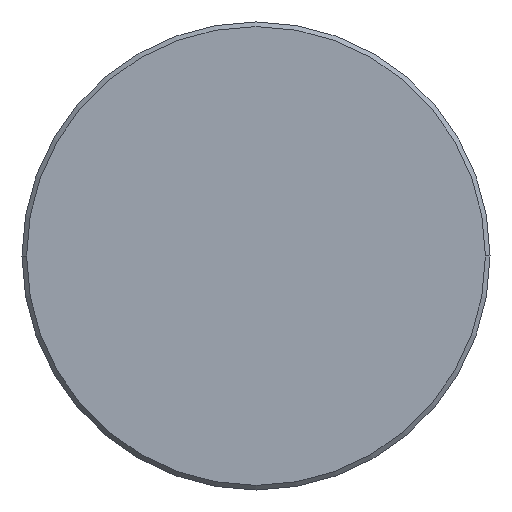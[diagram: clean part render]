
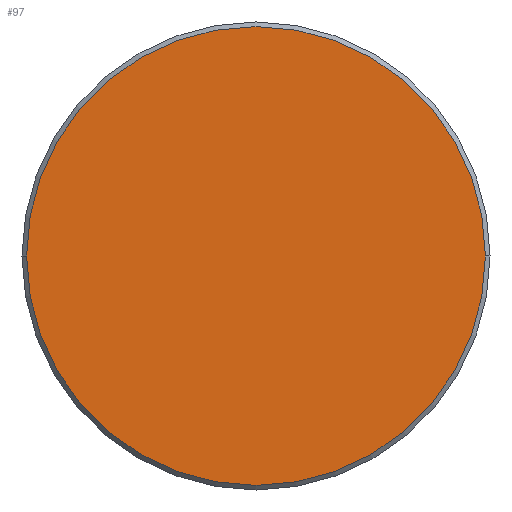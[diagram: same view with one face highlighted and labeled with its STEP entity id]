
A CAD part, left-side view. The second image highlights one B-rep face of the part: STEP entity #97.
In plain terms, the highlighted planar face has unit normal (-1, 0, 0).
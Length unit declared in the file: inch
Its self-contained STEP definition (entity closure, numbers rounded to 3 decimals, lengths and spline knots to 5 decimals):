
#7 = CARTESIAN_POINT ( 'NONE',  ( 0., 0., 0. ) ) ;
#15 = CARTESIAN_POINT ( 'NONE',  ( 0., 0., 0. ) ) ;
#27 = DIRECTION ( 'NONE',  ( -1., 0., 0. ) ) ;
#49 = FACE_OUTER_BOUND ( 'NONE', #260, .T. ) ;
#70 = DIRECTION ( 'NONE',  ( -1., 0., 0. ) ) ;
#97 = ADVANCED_FACE ( 'NONE', ( #49 ), #222, .T. ) ;
#112 = CIRCLE ( 'NONE', #287, 0.19913 ) ;
#121 = EDGE_CURVE ( 'NONE', #265, #298, #112, .T. ) ;
#148 = CIRCLE ( 'NONE', #376, 0.19913 ) ;
#169 = DIRECTION ( 'NONE',  ( 0., -1., 0. ) ) ;
#180 = CARTESIAN_POINT ( 'NONE',  ( 0., -0.19913, 0. ) ) ;
#195 = EDGE_CURVE ( 'NONE', #298, #265, #148, .T. ) ;
#222 = PLANE ( 'NONE',  #307 ) ;
#256 = DIRECTION ( 'NONE',  ( 0., -1., 0. ) ) ;
#260 = EDGE_LOOP ( 'NONE', ( #372, #325 ) ) ;
#265 = VERTEX_POINT ( 'NONE', #180 ) ;
#270 = DIRECTION ( 'NONE',  ( 0., -1., 0. ) ) ;
#287 = AXIS2_PLACEMENT_3D ( 'NONE', #7, #27, #256 ) ;
#292 = CARTESIAN_POINT ( 'NONE',  ( 0., 0., 0. ) ) ;
#298 = VERTEX_POINT ( 'NONE', #306 ) ;
#306 = CARTESIAN_POINT ( 'NONE',  ( 0., 0.19913, 0. ) ) ;
#307 = AXIS2_PLACEMENT_3D ( 'NONE', #292, #326, #169 ) ;
#325 = ORIENTED_EDGE ( 'NONE', *, *, #121, .T. ) ;
#326 = DIRECTION ( 'NONE',  ( -1., 0., 0. ) ) ;
#372 = ORIENTED_EDGE ( 'NONE', *, *, #195, .T. ) ;
#376 = AXIS2_PLACEMENT_3D ( 'NONE', #15, #70, #270 ) ;
